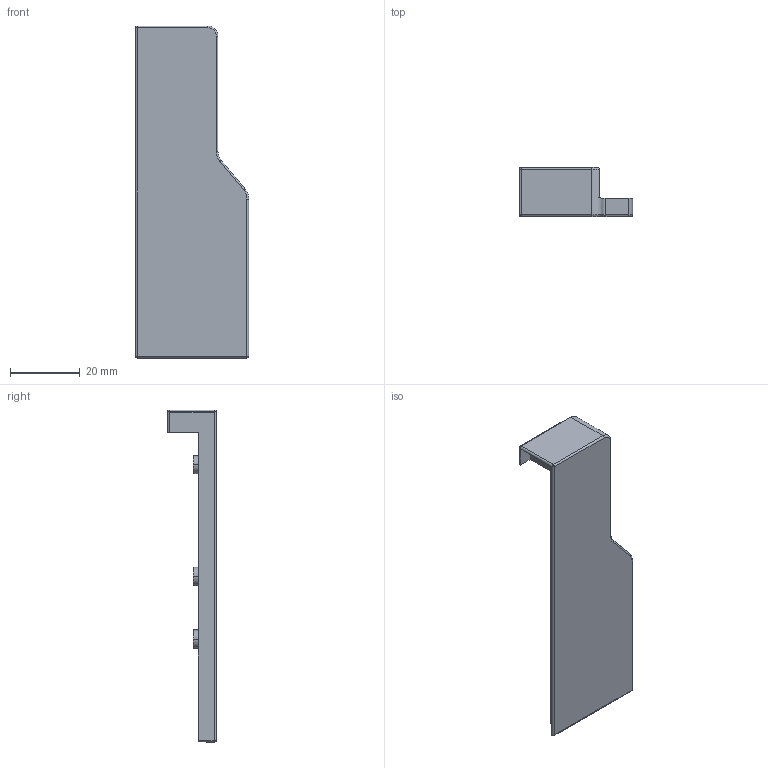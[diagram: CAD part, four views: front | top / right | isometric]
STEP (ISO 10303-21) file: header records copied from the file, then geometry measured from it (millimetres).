
FILE_DESCRIPTION (( 'STEP AP214' ), '1' );
FILE_NAME ('Frontblendenhalter_Classic_nieder_rechts.step', '2010-10-27T11:57:01', ( 'grass' ), ( '' ), 'SwSTEP 2.0', 'SolidWorks 2010', '' );
FILE_SCHEMA (( 'AUTOMOTIVE_DESIGN' ));
Length unit declared in the file: millimetre
Products named in the file (1): Frontblendenhalter_Classic_nieder_rechts
Bounding box: 32.5 x 14 x 95.15 mm (x, y, z)
Volume: 12860.6 mm3; surface area: 7272.6 mm2
Topology: 1 solids, 1 shells, 53 faces, 126 edges, 75 vertices
Faces by surface type: plane 24, cylinder 21, torus 4, sphere 4
Entity records: 1532 total; most frequent: DIRECTION 276, CARTESIAN_POINT 260, ORIENTED_EDGE 244, EDGE_CURVE 122, AXIS2_PLACEMENT_3D 101, VERTEX_POINT 75, LINE 74, VECTOR 74
